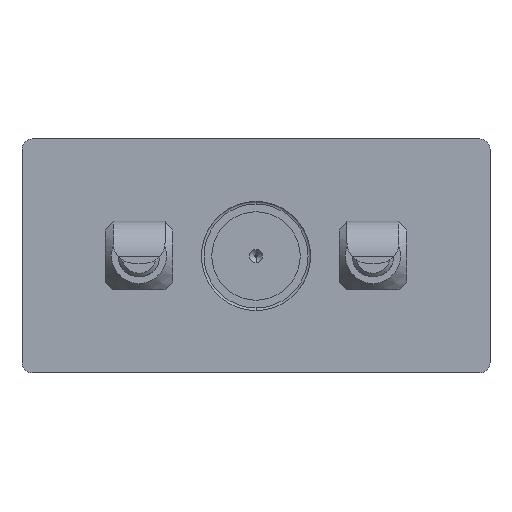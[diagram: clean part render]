
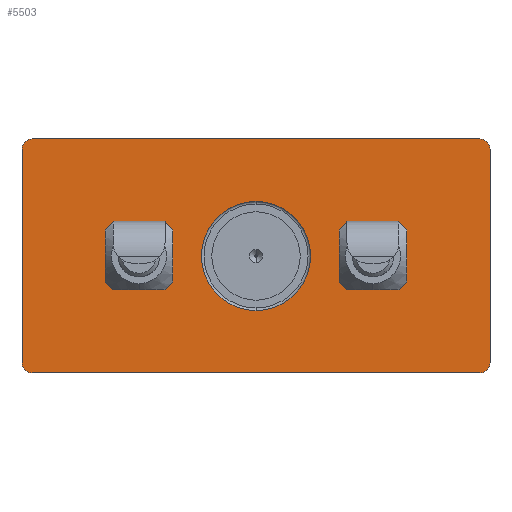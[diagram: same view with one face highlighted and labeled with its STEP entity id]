
A CAD part, front view. The second image highlights one B-rep face of the part: STEP entity #5503.
In plain terms, the highlighted planar face has unit normal (0, -1, 0).
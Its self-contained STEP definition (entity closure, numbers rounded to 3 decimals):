
#27 = DIRECTION ( 'NONE',  ( 0., 0., 1. ) ) ;
#144 = VERTEX_POINT ( 'NONE', #1090 ) ;
#178 = AXIS2_PLACEMENT_3D ( 'NONE', #5724, #5796, #414 ) ;
#282 = CARTESIAN_POINT ( 'NONE',  ( -44.934, -3.556, -22.261 ) ) ;
#300 = CIRCLE ( 'NONE', #3516, 2. ) ;
#308 = EDGE_CURVE ( 'NONE', #1082, #5080, #5654, .T. ) ;
#407 = VERTEX_POINT ( 'NONE', #2296 ) ;
#414 = DIRECTION ( 'NONE',  ( 0., 0., 1. ) ) ;
#502 = FACE_BOUND ( 'NONE', #4302, .T. ) ;
#774 = CARTESIAN_POINT ( 'NONE',  ( -1.934, -3.556, -1.761 ) ) ;
#963 = DIRECTION ( 'NONE',  ( 0., 0., 1. ) ) ;
#1032 = CARTESIAN_POINT ( 'NONE',  ( -44.934, -3.556, 18.739 ) ) ;
#1058 = CIRCLE ( 'NONE', #2531, 10.5 ) ;
#1082 = VERTEX_POINT ( 'NONE', #6307 ) ;
#1087 = CARTESIAN_POINT ( 'NONE',  ( -44.934, -3.556, -24.261 ) ) ;
#1090 = CARTESIAN_POINT ( 'NONE',  ( -44.934, -3.556, 20.739 ) ) ;
#1209 = CARTESIAN_POINT ( 'NONE',  ( 43.066, -3.556, 20.739 ) ) ;
#1218 = DIRECTION ( 'NONE',  ( -1., 0., 0. ) ) ;
#1283 = AXIS2_PLACEMENT_3D ( 'NONE', #1838, #4515, #6751 ) ;
#1298 = EDGE_CURVE ( 'NONE', #2365, #2712, #5535, .T. ) ;
#1349 = VERTEX_POINT ( 'NONE', #5894 ) ;
#1450 = CARTESIAN_POINT ( 'NONE',  ( 43.066, -3.556, -22.261 ) ) ;
#1593 = VERTEX_POINT ( 'NONE', #6963 ) ;
#1595 = FACE_BOUND ( 'NONE', #4892, .T. ) ;
#1632 = FACE_OUTER_BOUND ( 'NONE', #7057, .T. ) ;
#1672 = CIRCLE ( 'NONE', #7061, 4.5 ) ;
#1704 = ORIENTED_EDGE ( 'NONE', *, *, #4963, .T. ) ;
#1821 = CARTESIAN_POINT ( 'NONE',  ( 43.066, -3.556, -24.261 ) ) ;
#1838 = CARTESIAN_POINT ( 'NONE',  ( -1.934, -3.556, -1.761 ) ) ;
#1899 = VECTOR ( 'NONE', #1218, 1000. ) ;
#1983 = AXIS2_PLACEMENT_3D ( 'NONE', #6078, #4431, #3899 ) ;
#2004 = DIRECTION ( 'NONE',  ( 0., 0., 1. ) ) ;
#2186 = EDGE_CURVE ( 'NONE', #4873, #4526, #1672, .T. ) ;
#2233 = CARTESIAN_POINT ( 'NONE',  ( 20.566, -3.556, 2.739 ) ) ;
#2296 = CARTESIAN_POINT ( 'NONE',  ( 43.066, -3.556, 18.739 ) ) ;
#2365 = VERTEX_POINT ( 'NONE', #2664 ) ;
#2467 = DIRECTION ( 'NONE',  ( 0., 0., 1. ) ) ;
#2477 = CARTESIAN_POINT ( 'NONE',  ( 41.066, -3.556, 20.739 ) ) ;
#2494 = DIRECTION ( 'NONE',  ( 0., 0., -1. ) ) ;
#2524 = CARTESIAN_POINT ( 'NONE',  ( 41.066, -3.556, -22.261 ) ) ;
#2531 = AXIS2_PLACEMENT_3D ( 'NONE', #774, #3423, #5781 ) ;
#2543 = CARTESIAN_POINT ( 'NONE',  ( -24.434, -3.556, -1.761 ) ) ;
#2664 = CARTESIAN_POINT ( 'NONE',  ( -1.934, -3.556, -12.261 ) ) ;
#2712 = VERTEX_POINT ( 'NONE', #5379 ) ;
#2729 = VERTEX_POINT ( 'NONE', #1087 ) ;
#2747 = ORIENTED_EDGE ( 'NONE', *, *, #5693, .F. ) ;
#2830 = CIRCLE ( 'NONE', #3752, 2. ) ;
#2914 = EDGE_CURVE ( 'NONE', #407, #5132, #6688, .T. ) ;
#2968 = ORIENTED_EDGE ( 'NONE', *, *, #308, .T. ) ;
#3030 = CARTESIAN_POINT ( 'NONE',  ( -1.934, -3.556, -1.761 ) ) ;
#3107 = ORIENTED_EDGE ( 'NONE', *, *, #6724, .T. ) ;
#3111 = AXIS2_PLACEMENT_3D ( 'NONE', #2543, #6950, #2467 ) ;
#3234 = DIRECTION ( 'NONE',  ( 0., 0., 1. ) ) ;
#3365 = EDGE_CURVE ( 'NONE', #4526, #4873, #4190, .T. ) ;
#3384 = DIRECTION ( 'NONE',  ( 0., 0., -1. ) ) ;
#3423 = DIRECTION ( 'NONE',  ( 0., -1., 0. ) ) ;
#3516 = AXIS2_PLACEMENT_3D ( 'NONE', #1032, #6068, #7116 ) ;
#3752 = AXIS2_PLACEMENT_3D ( 'NONE', #282, #5873, #3234 ) ;
#3757 = LINE ( 'NONE', #5275, #6538 ) ;
#3789 = DIRECTION ( 'NONE',  ( 0., -1., 0. ) ) ;
#3806 = AXIS2_PLACEMENT_3D ( 'NONE', #3030, #5227, #2494 ) ;
#3816 = PLANE ( 'NONE',  #1283 ) ;
#3872 = DIRECTION ( 'NONE',  ( 0., 1., 0. ) ) ;
#3899 = DIRECTION ( 'NONE',  ( 0., 0., 1. ) ) ;
#3908 = AXIS2_PLACEMENT_3D ( 'NONE', #2524, #6938, #2004 ) ;
#4002 = EDGE_CURVE ( 'NONE', #6543, #2729, #6148, .T. ) ;
#4069 = ORIENTED_EDGE ( 'NONE', *, *, #2914, .F. ) ;
#4100 = AXIS2_PLACEMENT_3D ( 'NONE', #5412, #3789, #963 ) ;
#4190 = CIRCLE ( 'NONE', #178, 4.5 ) ;
#4216 = ORIENTED_EDGE ( 'NONE', *, *, #6895, .T. ) ;
#4282 = ORIENTED_EDGE ( 'NONE', *, *, #7090, .F. ) ;
#4302 = EDGE_LOOP ( 'NONE', ( #5085, #6866 ) ) ;
#4431 = DIRECTION ( 'NONE',  ( 0., 1., 0. ) ) ;
#4462 = ORIENTED_EDGE ( 'NONE', *, *, #4834, .T. ) ;
#4472 = EDGE_CURVE ( 'NONE', #1349, #1593, #6711, .T. ) ;
#4515 = DIRECTION ( 'NONE',  ( 0., 1., 0. ) ) ;
#4526 = VERTEX_POINT ( 'NONE', #2233 ) ;
#4603 = ORIENTED_EDGE ( 'NONE', *, *, #6443, .T. ) ;
#4834 = EDGE_CURVE ( 'NONE', #5080, #1082, #5050, .T. ) ;
#4873 = VERTEX_POINT ( 'NONE', #5626 ) ;
#4892 = EDGE_LOOP ( 'NONE', ( #6898, #4282 ) ) ;
#4934 = VECTOR ( 'NONE', #6050, 1000. ) ;
#4963 = EDGE_CURVE ( 'NONE', #6543, #5132, #5280, .T. ) ;
#5034 = VERTEX_POINT ( 'NONE', #2477 ) ;
#5050 = CIRCLE ( 'NONE', #1983, 4.5 ) ;
#5080 = VERTEX_POINT ( 'NONE', #7018 ) ;
#5085 = ORIENTED_EDGE ( 'NONE', *, *, #3365, .T. ) ;
#5132 = VERTEX_POINT ( 'NONE', #1450 ) ;
#5227 = DIRECTION ( 'NONE',  ( 0., -1., 0. ) ) ;
#5275 = CARTESIAN_POINT ( 'NONE',  ( -46.934, -3.556, 20.739 ) ) ;
#5280 = CIRCLE ( 'NONE', #3908, 2. ) ;
#5379 = CARTESIAN_POINT ( 'NONE',  ( -1.934, -3.556, 8.739 ) ) ;
#5412 = CARTESIAN_POINT ( 'NONE',  ( 41.066, -3.556, 18.739 ) ) ;
#5423 = CARTESIAN_POINT ( 'NONE',  ( 20.566, -3.556, -1.761 ) ) ;
#5426 = CARTESIAN_POINT ( 'NONE',  ( -46.934, -3.556, -24.261 ) ) ;
#5437 = FACE_BOUND ( 'NONE', #5823, .T. ) ;
#5503 = ADVANCED_FACE ( 'NONE', ( #5437, #502, #1595, #1632 ), #3816, .F. ) ;
#5535 = CIRCLE ( 'NONE', #3806, 10.5 ) ;
#5626 = CARTESIAN_POINT ( 'NONE',  ( 20.566, -3.556, -6.261 ) ) ;
#5654 = CIRCLE ( 'NONE', #3111, 4.5 ) ;
#5693 = EDGE_CURVE ( 'NONE', #144, #5034, #3757, .T. ) ;
#5724 = CARTESIAN_POINT ( 'NONE',  ( 20.566, -3.556, -1.761 ) ) ;
#5781 = DIRECTION ( 'NONE',  ( 0., 0., -1. ) ) ;
#5796 = DIRECTION ( 'NONE',  ( 0., 1., 0. ) ) ;
#5823 = EDGE_LOOP ( 'NONE', ( #4462, #2968 ) ) ;
#5824 = VECTOR ( 'NONE', #3384, 1000. ) ;
#5873 = DIRECTION ( 'NONE',  ( 0., -1., 0. ) ) ;
#5894 = CARTESIAN_POINT ( 'NONE',  ( -46.934, -3.556, -22.261 ) ) ;
#6050 = DIRECTION ( 'NONE',  ( 0., 0., 1. ) ) ;
#6068 = DIRECTION ( 'NONE',  ( 0., -1., 0. ) ) ;
#6073 = CIRCLE ( 'NONE', #4100, 2. ) ;
#6078 = CARTESIAN_POINT ( 'NONE',  ( -24.434, -3.556, -1.761 ) ) ;
#6148 = LINE ( 'NONE', #1821, #1899 ) ;
#6307 = CARTESIAN_POINT ( 'NONE',  ( -24.434, -3.556, -6.261 ) ) ;
#6443 = EDGE_CURVE ( 'NONE', #144, #1593, #300, .T. ) ;
#6445 = ORIENTED_EDGE ( 'NONE', *, *, #4002, .F. ) ;
#6529 = CARTESIAN_POINT ( 'NONE',  ( 41.066, -3.556, -24.261 ) ) ;
#6538 = VECTOR ( 'NONE', #6546, 1000. ) ;
#6543 = VERTEX_POINT ( 'NONE', #6529 ) ;
#6546 = DIRECTION ( 'NONE',  ( 1., 0., 0. ) ) ;
#6664 = ORIENTED_EDGE ( 'NONE', *, *, #4472, .F. ) ;
#6688 = LINE ( 'NONE', #1209, #5824 ) ;
#6711 = LINE ( 'NONE', #5426, #4934 ) ;
#6724 = EDGE_CURVE ( 'NONE', #1349, #2729, #2830, .T. ) ;
#6751 = DIRECTION ( 'NONE',  ( 0., 0., 1. ) ) ;
#6866 = ORIENTED_EDGE ( 'NONE', *, *, #2186, .T. ) ;
#6895 = EDGE_CURVE ( 'NONE', #407, #5034, #6073, .T. ) ;
#6898 = ORIENTED_EDGE ( 'NONE', *, *, #1298, .F. ) ;
#6938 = DIRECTION ( 'NONE',  ( 0., -1., 0. ) ) ;
#6950 = DIRECTION ( 'NONE',  ( 0., 1., 0. ) ) ;
#6963 = CARTESIAN_POINT ( 'NONE',  ( -46.934, -3.556, 18.739 ) ) ;
#7018 = CARTESIAN_POINT ( 'NONE',  ( -24.434, -3.556, 2.739 ) ) ;
#7057 = EDGE_LOOP ( 'NONE', ( #6445, #1704, #4069, #4216, #2747, #4603, #6664, #3107 ) ) ;
#7061 = AXIS2_PLACEMENT_3D ( 'NONE', #5423, #3872, #27 ) ;
#7090 = EDGE_CURVE ( 'NONE', #2712, #2365, #1058, .T. ) ;
#7116 = DIRECTION ( 'NONE',  ( 0., 0., 1. ) ) ;
